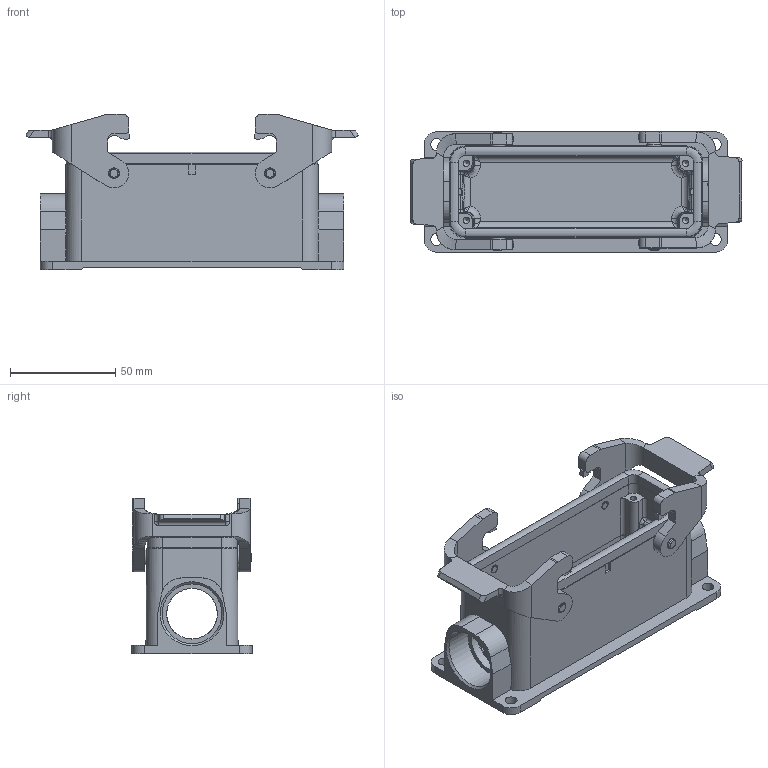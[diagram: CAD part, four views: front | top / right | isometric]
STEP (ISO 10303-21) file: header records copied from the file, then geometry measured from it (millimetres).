
FILE_DESCRIPTION(/* description */ (''),/* implementation_level */ '2;1');
FILE_NAME(/* name */ '100598740ugm000_c.stp',/* time_stamp */ '2022-03-11T20:55:22+01:00',/* author */ (''),/* organization */ (''),/* preprocessor_version */ 'ST-DEVELOPER v16.7',/* originating_system */ 'SIEMENS PLM Software NX 1911',/* authorisation */ '');
FILE_SCHEMA (('AUTOMOTIVE_DESIGN { 1 0 10303 214 3 1 1 1 }'));
Length unit declared in the file: millimetre
Products named in the file (1): 100598740ugm000_c
Bounding box: 157.4 x 57 x 73.8 mm (x, y, z)
Volume: 124556.9 mm3; surface area: 65762 mm2
Topology: 3 solids, 3 shells, 549 faces, 1439 edges, 908 vertices
Faces by surface type: plane 279, cylinder 194, bspline 44, cone 18, torus 8, sphere 4, extrusion 2
Full cylindrical faces by diameter (mm): 0.88 x1, 1.04 x1, 3 x4, 4 x4, 4.8 x4, 5.1 x4, 5.6 x4, 7 x4, 24 x2, 28.3 x2
Entity records: 20306 total; most frequent: CARTESIAN_POINT 4884, ORIENTED_EDGE 2700, DIRECTION 2691, EDGE_CURVE 1350, AXIS2_PLACEMENT_3D 938, VERTEX_POINT 884, VECTOR 815, LINE 813
